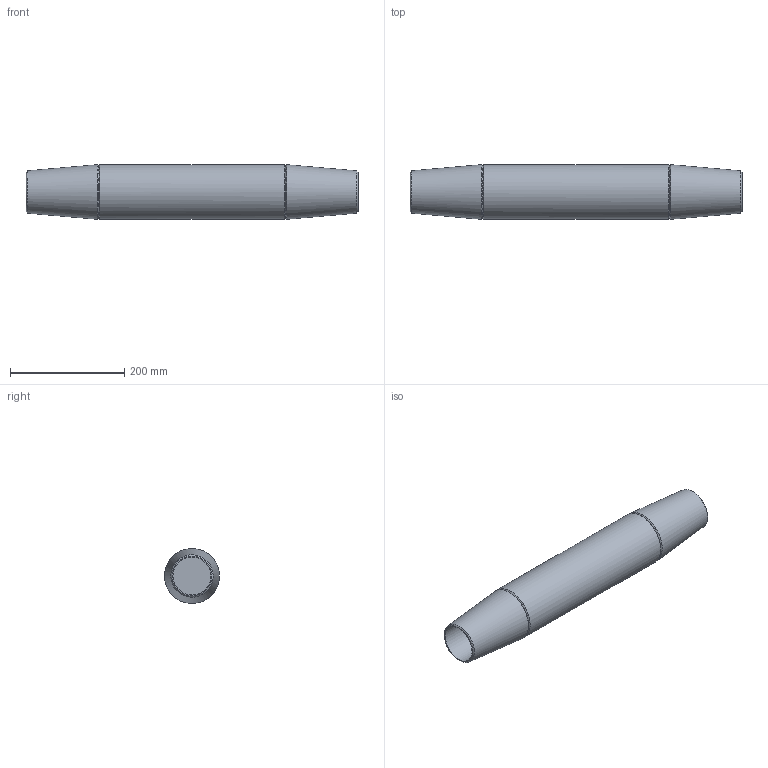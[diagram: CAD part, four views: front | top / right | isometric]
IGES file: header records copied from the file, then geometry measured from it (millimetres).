
Global section: file name: 520-064-MUF; native system: Autodesk Inventor 2016; preprocessor: unknown; author: Administrator; date: 20200630.132007; units: centimetre
Bounding box: 581 x 96 x 95.87 mm (x, y, z)
Volume: 3150461.5 mm3; surface area: 215296.2 mm2
Topology: 1 solids, 1 shells, 15 faces, 35 edges, 24 vertices
Faces by surface type: bspline 15
